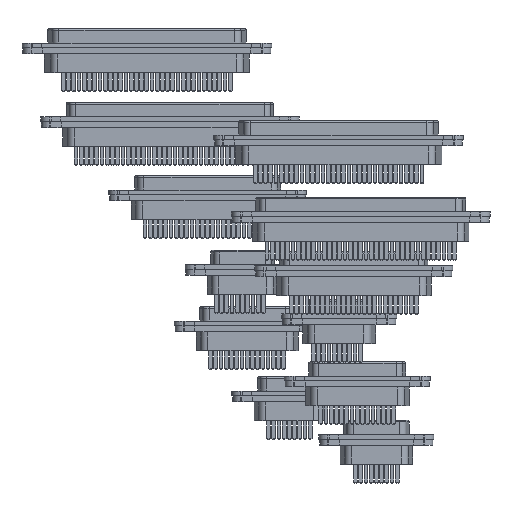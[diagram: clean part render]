
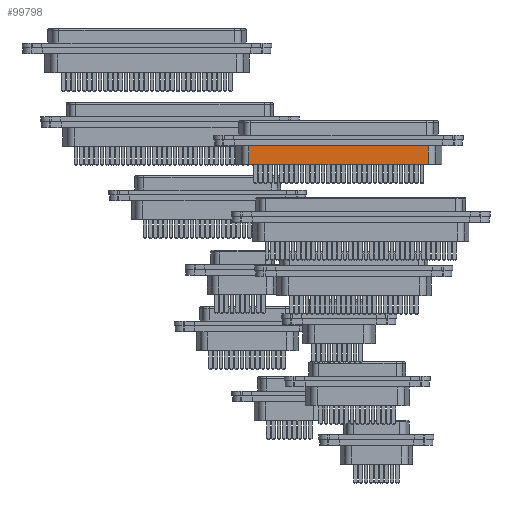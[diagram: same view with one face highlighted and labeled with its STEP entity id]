
A CAD part, front view. The second image highlights one B-rep face of the part: STEP entity #99798.
In plain terms, the highlighted planar face has unit normal (0, -1, 0).
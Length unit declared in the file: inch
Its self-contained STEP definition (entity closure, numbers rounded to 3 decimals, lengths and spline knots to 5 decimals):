
#99740=CARTESIAN_POINT('',(-0.94747,-0.268,-0.263));
#99741=VERTEX_POINT('',#99740);
#99749=CARTESIAN_POINT('',(-0.94747,-0.268,-0.063));
#99750=VERTEX_POINT('',#99749);
#99751=CARTESIAN_POINT('',(-0.94747,-0.268,-0.063));
#99752=DIRECTION('',(0.0,0.0,-1.0));
#99753=VECTOR('',#99752,0.2);
#99754=LINE('',#99751,#99753);
#99755=EDGE_CURVE('',#99750,#99741,#99754,.T.);
#99768=CARTESIAN_POINT('',(-0.94747,-0.268,-0.063));
#99769=DIRECTION('',(0.0,-1.0,0.0));
#99770=DIRECTION('',(0.0,0.0,-1.0));
#99771=AXIS2_PLACEMENT_3D('',#99768,#99769,#99770);
#99772=PLANE('',#99771);
#99773=CARTESIAN_POINT('',(0.94747,-0.268,-0.263));
#99774=VERTEX_POINT('',#99773);
#99775=CARTESIAN_POINT('',(-0.94747,-0.268,-0.263));
#99776=DIRECTION('',(1.0,0.0,0.0));
#99777=VECTOR('',#99776,1.89493);
#99778=LINE('',#99775,#99777);
#99779=EDGE_CURVE('',#99741,#99774,#99778,.T.);
#99780=ORIENTED_EDGE('',*,*,#99779,.T.);
#99781=CARTESIAN_POINT('',(0.94747,-0.268,-0.063));
#99782=VERTEX_POINT('',#99781);
#99783=CARTESIAN_POINT('',(0.94747,-0.268,-0.063));
#99784=DIRECTION('',(0.0,0.0,-1.0));
#99785=VECTOR('',#99784,0.2);
#99786=LINE('',#99783,#99785);
#99787=EDGE_CURVE('',#99782,#99774,#99786,.T.);
#99788=ORIENTED_EDGE('',*,*,#99787,.F.);
#99789=CARTESIAN_POINT('',(-0.94747,-0.268,-0.063));
#99790=DIRECTION('',(1.0,0.0,0.0));
#99791=VECTOR('',#99790,1.89493);
#99792=LINE('',#99789,#99791);
#99793=EDGE_CURVE('',#99750,#99782,#99792,.T.);
#99794=ORIENTED_EDGE('',*,*,#99793,.F.);
#99795=ORIENTED_EDGE('',*,*,#99755,.T.);
#99796=EDGE_LOOP('',(#99780,#99788,#99794,#99795));
#99797=FACE_OUTER_BOUND('',#99796,.T.);
#99798=ADVANCED_FACE('',(#99797),#99772,.T.);
